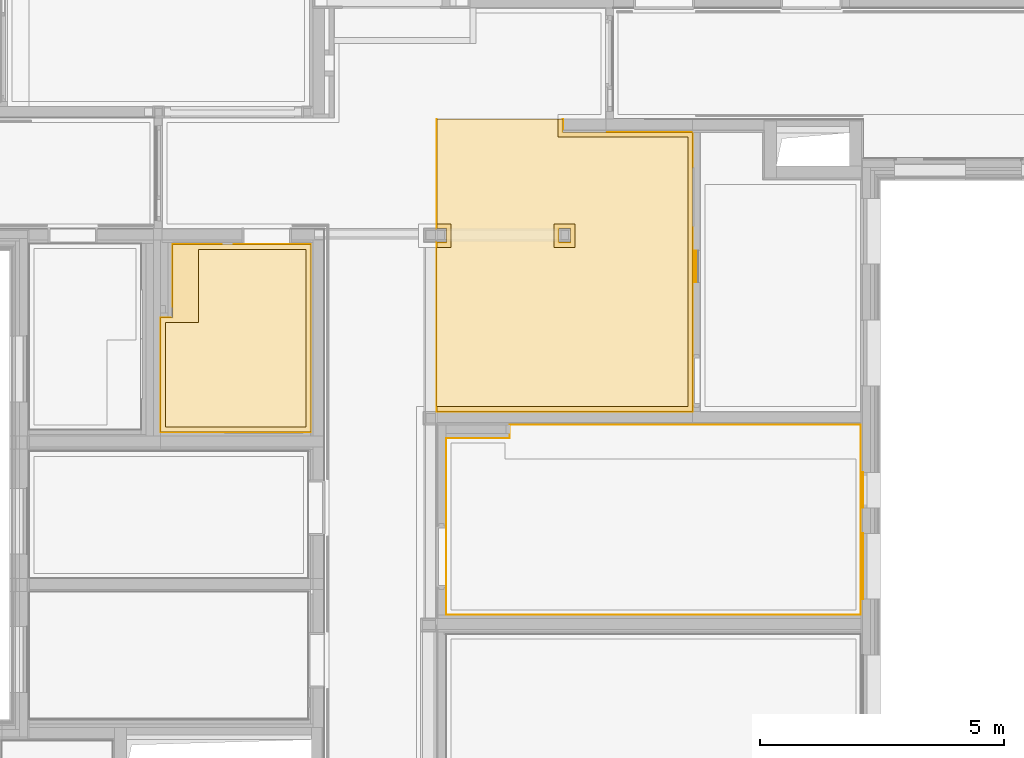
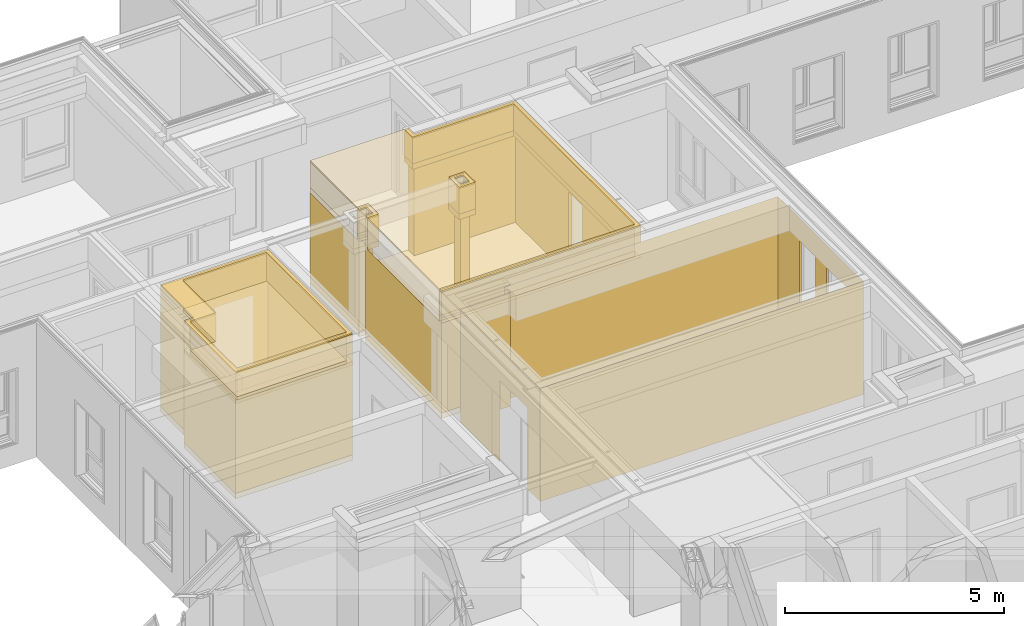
# One storey, part 190 of 222: 21 coverings.
"""IFC4 building model written with IfcOpenShell, lengths in metres."""

import ifcopenshell
import ifcopenshell.guid

model = None  # the IFC model being written
_history = None  # IfcOwnerHistory: only IFC2X3 demands one
_inside = {}  # id of a spatial element -> (the spatial element, [elements in it])
_under = {}  # id of a project, library or spatial element -> (it, [spatial elements below it])
_declared = {}  # id of a project -> (the project, [libraries it declares])
_typed = {}  # id of a type object -> (the type object, [elements of that type])
_made_of = {}  # id of a material, layer set ... -> (it, [elements and type objects made of it])


def new_model(schema):
    """Start an empty IFC model of exactly this schema.

    Asked for "IFC4X3", IfcOpenShell would pick the latest addendum, in which some entities
    have other attributes; the version numbers below select the first issue.
    IFC2X3 requires an IfcOwnerHistory on every rooted entity: one is made here for all.
    """
    global model, _history
    if schema == "IFC4X3":
        model = ifcopenshell.file(schema_version=(4, 3, 0, 0))
    else:
        model = ifcopenshell.file(schema=schema)
    _inside.clear()
    _under.clear()
    _declared.clear()
    _typed.clear()
    _made_of.clear()
    _history = None
    if model.schema == "IFC2X3":
        org = make("IfcOrganization", Name="unknown")
        user = make(
            "IfcPersonAndOrganization",
            ThePerson=make("IfcPerson", FamilyName="unknown"),
            TheOrganization=org,
        )
        app = make(
            "IfcApplication",
            ApplicationDeveloper=org,
            Version="unknown",
            ApplicationFullName="unknown",
            ApplicationIdentifier="unknown",
        )
        _history = make(
            "IfcOwnerHistory",
            OwningUser=user,
            OwningApplication=app,
            ChangeAction="ADDED",
            CreationDate=0,
        )
    return model


def make(cls, **values):
    """One entity of the class cls with the attributes given. An attribute that is None is left unset."""
    return model.create_entity(
        cls, **{name: value for name, value in values.items() if value is not None}
    )


def entity(cls, *values):
    """Any entity or typed value of the class cls, its attributes in the order of the schema. None: left unset."""
    e = model.create_entity(cls)
    for i, value in enumerate(values):
        if value is not None:
            e[i] = value
    return e


def rooted(cls, **values):
    """An entity with a GlobalId (a new one), such as an element, a storey or a relation."""
    return make(cls, GlobalId=ifcopenshell.guid.new(), OwnerHistory=_history, **values)


def si_unit(unit_type, name, prefix=None):
    """IfcSIUnit, for example si_unit("LENGTHUNIT", "METRE", prefix="MILLI")."""
    return make("IfcSIUnit", UnitType=unit_type, Prefix=prefix, Name=name)


def converted_unit(unit_type, name, factor, base, dimensions=None, offset=None):
    """IfcConversionBasedUnit, such as the inch: factor (a typed value) times the base unit."""
    return make(
        "IfcConversionBasedUnit"
        if offset is None
        else "IfcConversionBasedUnitWithOffset",
        ConversionOffset=offset,
        Dimensions=None
        if dimensions is None
        else entity("IfcDimensionalExponents", *dimensions),
        UnitType=unit_type,
        Name=name,
        ConversionFactor=make(
            "IfcMeasureWithUnit", ValueComponent=factor, UnitComponent=base
        ),
    )


def derived_unit(unit_type, elements):
    """IfcDerivedUnit: a product of units, each with its exponent."""
    return make(
        "IfcDerivedUnit",
        Elements=[
            make("IfcDerivedUnitElement", Unit=unit, Exponent=power)
            for unit, power in elements
        ],
        UnitType=unit_type,
    )


def assignment(units):
    """IfcUnitAssignment: the units of a project."""
    return None if units is None else make("IfcUnitAssignment", Units=units)


def point(xyz):
    """IfcCartesianPoint."""
    return None if xyz is None else make("IfcCartesianPoint", Coordinates=xyz)


def direction(xyz):
    """IfcDirection."""
    return None if xyz is None else make("IfcDirection", DirectionRatios=xyz)


def frame(location, z_axis=None, x_axis=None):
    """IfcAxis2Placement3D, a coordinate frame: its origin and axes. An axis left out is left unset."""
    return make(
        "IfcAxis2Placement3D",
        Location=point(location),
        Axis=direction(z_axis),
        RefDirection=direction(x_axis),
    )


def frame_2d(location, x_axis=None):
    """IfcAxis2Placement2D, a coordinate frame in the plane: its origin and x axis."""
    return make(
        "IfcAxis2Placement2D", Location=point(location), RefDirection=direction(x_axis)
    )


def origin():
    """The frame at (0, 0, 0) with its axes left unset."""
    return frame((0.0, 0.0, 0.0))


def origin_with_axes():
    """The frame at (0, 0, 0) with the z axis (0, 0, 1) and the x axis (1, 0, 0) written out."""
    return frame((0.0, 0.0, 0.0), z_axis=(0.0, 0.0, 1.0), x_axis=(1.0, 0.0, 0.0))


def place(relative_to, where):
    """IfcLocalPlacement: puts the frame where relative to a parent placement (None: the world)."""
    return make(
        "IfcLocalPlacement", PlacementRelTo=relative_to, RelativePlacement=where
    )


def context(
    kind, dimensions, precision=None, world=None, true_north=None, identifier=None
):
    """IfcGeometricRepresentationContext, for example the 3D "Model" context."""
    return make(
        "IfcGeometricRepresentationContext",
        ContextIdentifier=identifier,
        ContextType=kind,
        CoordinateSpaceDimension=dimensions,
        Precision=precision,
        WorldCoordinateSystem=world,
        TrueNorth=true_north,
    )


def subcontext(parent, identifier, kind, view, scale=None):
    """IfcGeometricRepresentationSubContext, for example "Body" below "Model"."""
    return make(
        "IfcGeometricRepresentationSubContext",
        ContextIdentifier=identifier,
        ContextType=kind,
        ParentContext=parent,
        TargetScale=scale,
        TargetView=view,
    )


def project(units=None, contexts=None):
    """IfcProject with its units and contexts."""
    return rooted(
        "IfcProject",
        Name="project",
        RepresentationContexts=contexts,
        UnitsInContext=assignment(units),
    )


def spatial(cls, under=None, at=None, **own):
    """A site, building, storey or space (cls), placed at a placement, below another one or the project."""
    s = rooted(cls, ObjectPlacement=at, **own)
    if under is not None:
        _under.setdefault(under.id(), (under, []))[1].append(s)
    return s


def polyline(points):
    """IfcPolyline through the points."""
    return make("IfcPolyline", Points=[point(p) for p in points])


def profile(cls, at=None, kind="AREA", **sizes):
    """A parametric profile (cls). Its sizes go by their IFC names, for example OverallWidth=200.0."""
    return make(cls, ProfileType=kind, Position=at, **sizes)


def rectangle(**sizes):
    """IfcRectangleProfileDef."""
    return profile("IfcRectangleProfileDef", **sizes)


def outline(outer, holes=None, kind="AREA"):
    """IfcArbitraryClosedProfileDef: a profile drawn as a closed curve; with holes, ...WithVoids."""
    if holes is None:
        return make("IfcArbitraryClosedProfileDef", ProfileType=kind, OuterCurve=outer)
    return make(
        "IfcArbitraryProfileDefWithVoids",
        ProfileType=kind,
        OuterCurve=outer,
        InnerCurves=holes,
    )


def extrude(swept, where, along, depth):
    """IfcExtrudedAreaSolid: the profile swept, set in the frame where, extruded along a direction by depth."""
    return make(
        "IfcExtrudedAreaSolid",
        SweptArea=swept,
        Position=where,
        ExtrudedDirection=direction(along),
        Depth=depth,
    )


def shape(context_of_items, identifier, shape_type, items):
    """IfcShapeRepresentation: the items that make up one representation, for example the "Body"."""
    return make(
        "IfcShapeRepresentation",
        ContextOfItems=context_of_items,
        RepresentationIdentifier=identifier,
        RepresentationType=shape_type,
        Items=items,
    )


def material(Name=None, Category=None):
    """IfcMaterial."""
    return make("IfcMaterial", Name=Name, Category=Category)


def layer(
    of_material, thickness, ventilated=None, Name=None, Category=None, Priority=None
):
    """IfcMaterialLayer: one layer of a wall or slab, of a material (None: an air gap)."""
    return make(
        "IfcMaterialLayer",
        Material=of_material,
        LayerThickness=thickness,
        IsVentilated=ventilated,
        Name=Name,
        Category=Category,
        Priority=Priority,
    )


def layer_set(layers, Name=None):
    """IfcMaterialLayerSet."""
    return make("IfcMaterialLayerSet", MaterialLayers=layers, LayerSetName=Name)


def layer_usage(for_layer_set, set_direction, sense, offset, extent=None):
    """IfcMaterialLayerSetUsage: how a layer set lies in its element."""
    return make(
        "IfcMaterialLayerSetUsage",
        ForLayerSet=for_layer_set,
        LayerSetDirection=set_direction,
        DirectionSense=sense,
        OffsetFromReferenceLine=offset,
        ReferenceExtent=extent,
    )


def made_of(thing, what):
    """Note that an element or type object is made of a material, layer set ...; save() writes the relation."""
    if what is not None:
        _made_of.setdefault(what.id(), (what, []))[1].append(thing)
    return thing


def element(
    cls,
    number,
    at=None,
    inside=None,
    cuts=None,
    type_object=None,
    material=None,
    context=None,
    identifier="Body",
    shape_type=None,
    held_by="IfcProductDefinitionShape",
    body=None,
    shapes=None,
    **own,
):
    """One element of the class cls, such as IfcWall. Its Tag is "e" and its number.

    at: its placement. inside: the storey or other place that contains it. cuts: it is an
    opening in that element (IfcRelVoidsElement). A single representation is given by context,
    identifier, shape_type and body (its items); several are given by shapes. held_by: the class
    of the entity that holds the representations. save() writes the other relations.
    """
    e = rooted(cls, Tag="e%d" % number, ObjectPlacement=at, **own)
    if body is not None:
        shapes = [shape(context, identifier, shape_type, body)]
    if shapes is not None:
        e.Representation = make(held_by, Representations=shapes)
    if inside is not None:
        _inside.setdefault(inside.id(), (inside, []))[1].append(e)
    if cuts is not None:
        rooted(
            "IfcRelVoidsElement", RelatingBuildingElement=cuts, RelatedOpeningElement=e
        )
    if type_object is not None:
        _typed.setdefault(type_object.id(), (type_object, []))[1].append(e)
    return made_of(e, material)


def aggregate(whole, parts):
    """IfcRelAggregates: a whole, such as a stair, and the parts it consists of."""
    return rooted("IfcRelAggregates", RelatingObject=whole, RelatedObjects=parts)


def save(model, path):
    """Write the relations noted so far, then the file.

    IfcRelAggregates (storeys below a building ...), IfcRelContainedInSpatialStructure (elements
    in a storey), IfcRelDefinesByType, IfcRelAssociatesMaterial and IfcRelDeclares: one each for
    every whole, place, type object, material and project.
    """
    for whole, parts in _under.values():
        aggregate(whole, parts)
    for where, things in _inside.values():
        rooted(
            "IfcRelContainedInSpatialStructure",
            RelatedElements=things,
            RelatingStructure=where,
        )
    for kind, things in _typed.values():
        rooted("IfcRelDefinesByType", RelatedObjects=things, RelatingType=kind)
    for what, things in _made_of.values():
        rooted("IfcRelAssociatesMaterial", RelatedObjects=things, RelatingMaterial=what)
    for by, libraries in _declared.values():
        rooted("IfcRelDeclares", RelatingContext=by, RelatedDefinitions=libraries)
    model.write(path)


model = new_model("IFC4")

# Units and contexts
model_context = context("Model", 3, precision=1e-05, world=origin())
body_context = subcontext(model_context, "Body", "Model", "MODEL_VIEW")
ifc_project = project(units=[si_unit("LENGTHUNIT", "METRE"), si_unit("AREAUNIT", "SQUARE_METRE"), si_unit("VOLUMEUNIT", "CUBIC_METRE"), si_unit("MASSUNIT", "GRAM", prefix="KILO"), converted_unit("PLANEANGLEUNIT", "DEGREE", entity("IfcPlaneAngleMeasure", 0.0174532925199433), si_unit("PLANEANGLEUNIT", "RADIAN"), dimensions=[0, 0, 0, 0, 0, 0, 0]), derived_unit("THERMALTRANSMITTANCEUNIT", [(si_unit("POWERUNIT", "WATT"), 1), (si_unit("THERMODYNAMICTEMPERATUREUNIT", "KELVIN"), -1), (si_unit("LENGTHUNIT", "METRE"), -2)]), derived_unit("VOLUMETRICFLOWRATEUNIT", [(si_unit("LENGTHUNIT", "METRE"), 3), (converted_unit("TIMEUNIT", "hour", entity("IfcTimeMeasure", 3600.0), si_unit("TIMEUNIT", "SECOND"), dimensions=[0, 0, 1, 0, 0, 0, 0]), -1), (si_unit("LENGTHUNIT", "METRE"), -1)])], contexts=[model_context])

# Site, building, storey, space
site_placement = place(None, origin())
site = spatial("IfcSite", under=ifc_project, at=site_placement, Name="Psychiatrie Neubau Wunstorf", CompositionType="ELEMENT")
building_placement = place(site_placement, origin())
building = spatial("IfcBuilding", under=site, at=building_placement, Name="Neubau H2 Stationsgebäude", CompositionType="ELEMENT")
storey_placement = place(building_placement, frame((0.0, 0.0, 3.6)))
storey = spatial("IfcBuildingStorey", under=building, at=storey_placement, Name="H2 Ebene +1", CompositionType="ELEMENT", Elevation=3.6)
space_1_placement = place(storey_placement, frame((64.76, 16.411000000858, 0.0)))
space_1 = spatial("IfcSpace", under=storey, at=space_1_placement, Name="WUN-H2-E01-067", CompositionType="ELEMENT")

# Coverings
ifc_material_1 = material()
ifc_layer_1 = layer(ifc_material_1, 0.036)
ifc_layer_set_1 = layer_set([ifc_layer_1])
ifc_layer_usage_1 = layer_usage(ifc_layer_set_1, "AXIS3", "POSITIVE", 0.0)
covering_1_placement = place(space_1_placement, frame((0.100000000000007, 0.1, 3.55)))
element("IfcCovering", 1, at=covering_1_placement, inside=space_1, material=ifc_layer_usage_1, Name="Gipsfaserplatten 2-lagig (BSK)", PredefinedType="CEILING", context=body_context, shape_type="SweptSolid", body=[
    extrude(outline(polyline([(0.0, 3.65299815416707), (0.0, 1.50300224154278), (0.680001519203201, 1.50300224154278), (0.680001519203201, 0.0), (2.88550000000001, 0.0), (2.88550000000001, 3.65299815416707), (0.0, 3.65299815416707)])), frame((0.0, 3.65299815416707, 0.0), z_axis=(0.0, 0.0, -1.0), x_axis=(1.0, 0.0, 0.0)), (0.0, 0.0, 1.0), 0.036),
])
ifc_material_2 = material(Name="Installationshöhe")
ifc_layer_2 = layer(ifc_material_2, 0.764)
ifc_layer_set_2 = layer_set([ifc_layer_2])
ifc_layer_usage_2 = layer_usage(ifc_layer_set_2, "AXIS3", "POSITIVE", 0.0)
covering_2_placement = place(space_1_placement, frame((0.100000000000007, 0.1, 3.514)))
element("IfcCovering", 2, at=covering_2_placement, inside=space_1, material=ifc_layer_usage_2, Name="Gipsfaserplatten 2-lagig (BSK)", PredefinedType="CEILING", context=body_context, shape_type="SweptSolid", body=[
    extrude(outline(polyline([(0.0, 3.65299815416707), (0.0, 1.50300224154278), (0.680001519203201, 1.50300224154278), (0.680001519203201, 0.0), (2.88550000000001, 0.0), (2.88550000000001, 3.65299815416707), (0.0, 3.65299815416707)])), frame((0.0, 3.65299815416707, 0.0), z_axis=(0.0, 0.0, -1.0), x_axis=(1.0, 0.0, 0.0)), (0.0, 0.0, 1.0), 0.764),
])
ifc_material_3 = material(Name="H7a")
ifc_layer_3 = layer(ifc_material_3, 0.1)
ifc_layer_set_3 = layer_set([ifc_layer_3])
ifc_layer_usage_3 = layer_usage(ifc_layer_set_3, "AXIS3", "POSITIVE", 0.0)
covering_3_placement = place(space_1_placement, frame((0.100000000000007, 0.1, 2.75)))
element("IfcCovering", 3, at=covering_3_placement, inside=space_1, material=ifc_layer_usage_3, Name="Kühldecke glatt", PredefinedType="CEILING", context=body_context, shape_type="SweptSolid", body=[
    extrude(outline(polyline([(0.0, 3.65299815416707), (0.0, 1.50300224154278), (0.680001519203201, 1.50300224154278), (0.680001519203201, 0.0), (2.88550000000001, 0.0), (2.88550000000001, 3.65299815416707), (0.0, 3.65299815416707)])), frame((0.0, 3.65299815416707, 0.0), z_axis=(0.0, 0.0, -1.0), x_axis=(1.0, 0.0, 0.0)), (0.0, 0.0, 1.0), 0.1),
])
ifc_material_4 = material(Name="D1")
ifc_layer_4 = layer(ifc_material_4, 0.001)
ifc_layer_set_4 = layer_set([ifc_layer_4])
ifc_layer_usage_4 = layer_usage(ifc_layer_set_4, "AXIS3", "POSITIVE", 0.0)
covering_4_placement = place(space_1_placement, frame((0.100000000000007, 0.1, 2.65)))
element("IfcCovering", 4, at=covering_4_placement, inside=space_1, material=ifc_layer_usage_4, Name="Gipsfaserplatten 2-lagig (BSK)", PredefinedType="CEILING", context=body_context, shape_type="SweptSolid", body=[
    extrude(outline(polyline([(0.0, 3.65299815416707), (0.0, 1.50300224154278), (0.680001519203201, 1.50300224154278), (0.680001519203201, 0.0), (2.88550000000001, 0.0), (2.88550000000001, 3.65299815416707), (0.0, 3.65299815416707)])), frame((0.0, 3.65299815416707, 0.0), z_axis=(0.0, 0.0, -1.0), x_axis=(1.0, 0.0, 0.0)), (0.0, 0.0, 1.0), 0.001),
])
ifc_material_5 = material(Name="Ku1")
ifc_layer_5 = layer(ifc_material_5, 0.15)
ifc_layer_set_5 = layer_set([ifc_layer_5])
ifc_layer_usage_5 = layer_usage(ifc_layer_set_5, "AXIS3", "POSITIVE", 0.0)
covering_5_placement = place(space_1_placement, origin())
element("IfcCovering", 5, at=covering_5_placement, inside=space_1, material=ifc_layer_usage_5, Name="PVC Bahnenware Holzoptik", PredefinedType="FLOORING", context=body_context, shape_type="SweptSolid", body=[
    extrude(outline(polyline([(0.250000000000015, 3.85299815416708), (0.250000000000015, 2.34999604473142), (0.0, 2.34999604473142), (0.0, 0.0), (3.08550000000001, 0.0), (3.08550000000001, 3.85299815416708), (0.250000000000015, 3.85299815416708)])), origin_with_axes(), (0.0, 0.0, 1.0), 0.15),
])
ifc_material_6 = material()
ifc_layer_6 = layer(ifc_material_6, 0.036)
ifc_layer_set_6 = layer_set([ifc_layer_6])
ifc_layer_usage_6 = layer_usage(ifc_layer_set_6, "AXIS3", "POSITIVE", 0.0)
covering_6_placement = place(space_1_placement, frame((0.0, 0.0, 3.55)))
element("IfcCovering", 6, at=covering_6_placement, inside=space_1, material=ifc_layer_usage_6, Name="Gipsfaserplatten 2-lagig (BSK)", PredefinedType="CEILING", context=body_context, shape_type="SweptSolid", body=[
    extrude(outline(polyline([(0.250000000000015, 1.50300210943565), (0.250000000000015, 0.0), (3.08550000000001, 0.0), (3.08550000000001, 3.85299815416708), (0.0, 3.85299815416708), (0.0, 1.50300210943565), (0.250000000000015, 1.50300210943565)]), holes=[polyline([(0.1, 1.60300224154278), (0.1, 3.75299815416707), (2.98550000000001, 3.75299815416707), (2.98550000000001, 0.1), (0.780001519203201, 0.1), (0.780001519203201, 1.60300224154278), (0.1, 1.60300224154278)])]), frame((0.0, 3.85299815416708, 0.0), z_axis=(0.0, 0.0, -1.0), x_axis=(1.0, 0.0, 0.0)), (0.0, 0.0, 1.0), 0.036),
])
ifc_material_7 = material(Name="Installationshöhe")
ifc_layer_7 = layer(ifc_material_7, 0.764)
ifc_layer_set_7 = layer_set([ifc_layer_7])
ifc_layer_usage_7 = layer_usage(ifc_layer_set_7, "AXIS3", "POSITIVE", 0.0)
covering_7_placement = place(space_1_placement, frame((0.0, 0.0, 3.514)))
element("IfcCovering", 7, at=covering_7_placement, inside=space_1, material=ifc_layer_usage_7, Name="Gipsfaserplatten 2-lagig (BSK)", PredefinedType="CEILING", context=body_context, shape_type="SweptSolid", body=[
    extrude(outline(polyline([(0.250000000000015, 1.50300210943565), (0.250000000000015, 0.0), (3.08550000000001, 0.0), (3.08550000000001, 3.85299815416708), (0.0, 3.85299815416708), (0.0, 1.50300210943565), (0.250000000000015, 1.50300210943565)]), holes=[polyline([(0.1, 1.60300224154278), (0.1, 3.75299815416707), (2.98550000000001, 3.75299815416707), (2.98550000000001, 0.1), (0.780001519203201, 0.1), (0.780001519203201, 1.60300224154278), (0.1, 1.60300224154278)])]), frame((0.0, 3.85299815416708, 0.0), z_axis=(0.0, 0.0, -1.0), x_axis=(1.0, 0.0, 0.0)), (0.0, 0.0, 1.0), 0.764),
])
ifc_material_8 = material(Name="H7a")
ifc_layer_8 = layer(ifc_material_8, 0.1)
ifc_layer_set_8 = layer_set([ifc_layer_8])
ifc_layer_usage_8 = layer_usage(ifc_layer_set_8, "AXIS3", "POSITIVE", 0.0)
covering_8_placement = place(space_1_placement, frame((0.0, 0.0, 2.75)))
element("IfcCovering", 8, at=covering_8_placement, inside=space_1, material=ifc_layer_usage_8, Name="Kühldecke glatt", PredefinedType="CEILING", context=body_context, shape_type="SweptSolid", body=[
    extrude(outline(polyline([(0.250000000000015, 1.50300210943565), (0.250000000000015, 0.0), (3.08550000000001, 0.0), (3.08550000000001, 3.85299815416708), (0.0, 3.85299815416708), (0.0, 1.50300210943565), (0.250000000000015, 1.50300210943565)]), holes=[polyline([(0.1, 1.60300224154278), (0.1, 3.75299815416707), (2.98550000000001, 3.75299815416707), (2.98550000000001, 0.1), (0.780001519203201, 0.1), (0.780001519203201, 1.60300224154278), (0.1, 1.60300224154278)])]), frame((0.0, 3.85299815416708, 0.0), z_axis=(0.0, 0.0, -1.0), x_axis=(1.0, 0.0, 0.0)), (0.0, 0.0, 1.0), 0.1),
])
ifc_material_9 = material(Name="D1")
ifc_layer_9 = layer(ifc_material_9, 0.001)
ifc_layer_set_9 = layer_set([ifc_layer_9])
ifc_layer_usage_9 = layer_usage(ifc_layer_set_9, "AXIS3", "POSITIVE", 0.0)
covering_9_placement = place(space_1_placement, frame((0.0, 0.0, 2.65)))
element("IfcCovering", 9, at=covering_9_placement, inside=space_1, material=ifc_layer_usage_9, Name="Gipsfaserplatten 2-lagig (BSK)", PredefinedType="CEILING", context=body_context, shape_type="SweptSolid", body=[
    extrude(outline(polyline([(0.250000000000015, 1.50300210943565), (0.250000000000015, 0.0), (3.08550000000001, 0.0), (3.08550000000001, 3.85299815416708), (0.0, 3.85299815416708), (0.0, 1.50300210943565), (0.250000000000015, 1.50300210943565)]), holes=[polyline([(0.1, 1.60300224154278), (0.1, 3.75299815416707), (2.98550000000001, 3.75299815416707), (2.98550000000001, 0.1), (0.780001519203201, 0.1), (0.780001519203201, 1.60300224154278), (0.1, 1.60300224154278)])]), frame((0.0, 3.85299815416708, 0.0), z_axis=(0.0, 0.0, -1.0), x_axis=(1.0, 0.0, 0.0)), (0.0, 0.0, 1.0), 0.001),
])
ifc_material_10 = material(Name="49")
ifc_layer_10 = layer(ifc_material_10, 0.001)
ifc_layer_set_10 = layer_set([ifc_layer_10])
ifc_layer_usage_10 = layer_usage(ifc_layer_set_10, "AXIS3", "POSITIVE", 0.0)
covering_10_placement = place(space_1_placement, frame((0.0, 0.0, 0.15)))
element("IfcCovering", 10, at=covering_10_placement, inside=space_1, material=ifc_layer_usage_10, PredefinedType="CLADDING", context=body_context, shape_type="SweptSolid", body=[
    extrude(rectangle(XDim=3.85299815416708, YDim=3.15, at=frame_2d((1.92649907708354, -1.575), x_axis=(1.0, 0.0))), frame((3.08550000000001, 0.0, 0.0), z_axis=(-1.0, 0.0, 0.0), x_axis=(0.0, 1.0, 0.0)), (0.0, 0.0, 1.0), 0.001),
    extrude(outline(polyline([(0.0, 3.15), (0.400000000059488, 3.15), (0.400000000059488, 0.89), (1.41000000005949, 0.89), (1.41000000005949, 3.15), (2.8355, 3.15), (2.8355, 0.0), (0.0, 0.0), (0.0, 3.15)])), frame((3.08550000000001, 3.85299815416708, 3.15), z_axis=(0.0, -1.0, 0.0), x_axis=(-1.0, 0.0, 0.0)), (0.0, 0.0, 1.0), 0.001),
    extrude(rectangle(XDim=1.50300210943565, YDim=3.15, at=frame_2d((0.751501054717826, -1.575), x_axis=(1.0, 0.0))), frame((0.250000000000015, 3.85299815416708, 0.0), z_axis=(1.0, 0.0, 0.0), x_axis=(0.0, -1.0, 0.0)), (0.0, 0.0, 1.0), 0.001),
    extrude(rectangle(XDim=0.250000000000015, YDim=3.15, at=frame_2d((0.125000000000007, -1.575), x_axis=(1.0, 0.0))), frame((0.250000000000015, 2.34999604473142, 0.0), z_axis=(0.0, -1.0, 0.0), x_axis=(-1.0, 0.0, 0.0)), (0.0, 0.0, 1.0), 0.001),
    extrude(rectangle(XDim=2.34999604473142, YDim=3.15, at=frame_2d((1.17499802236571, -1.575), x_axis=(1.0, 0.0))), frame((0.0, 2.34999604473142, 0.0), z_axis=(1.0, 0.0, 0.0), x_axis=(0.0, -1.0, 0.0)), (0.0, 0.0, 1.0), 0.001),
    extrude(rectangle(XDim=3.08550000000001, YDim=3.15, at=frame_2d((1.54275000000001, -1.575), x_axis=(1.0, 0.0))), frame((0.0, 0.0, 0.0), z_axis=(0.0, 1.0, 0.0), x_axis=(1.0, 0.0, 0.0)), (0.0, 0.0, 1.0), 0.001),
])

# Space
space_2_placement = place(storey_placement, frame((70.6200000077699, 12.661, 0.0)))
space_2 = spatial("IfcSpace", under=storey, at=space_2_placement, Name="WUN-H2-E01-058", CompositionType="ELEMENT")

# Covering
ifc_material_11 = material(Name="49")
ifc_layer_11 = layer(ifc_material_11, 0.001)
ifc_layer_set_11 = layer_set([ifc_layer_11])
ifc_layer_usage_11 = layer_usage(ifc_layer_set_11, "AXIS3", "POSITIVE", 0.0)
covering_11_placement = place(space_2_placement, frame((0.0, 0.0, 0.15)))
element("IfcCovering", 11, at=covering_11_placement, inside=space_2, material=ifc_layer_usage_11, PredefinedType="CLADDING", context=body_context, shape_type="SweptSolid", body=[
    extrude(rectangle(XDim=7.20899999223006, YDim=3.15, at=frame_2d((3.60449999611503, -1.575), x_axis=(1.0, 0.0))), frame((8.51899999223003, 3.89949999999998, 0.0), z_axis=(0.0, -1.0, 0.0), x_axis=(-1.0, 0.0, 0.0)), (0.0, 0.0, 1.0), 0.001),
    extrude(rectangle(XDim=0.275000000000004, YDim=3.15, at=frame_2d((0.137500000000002, -1.575), x_axis=(1.0, 0.0))), frame((1.30999999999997, 3.89949999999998, 0.0), z_axis=(1.0, 0.0, 0.0), x_axis=(0.0, -1.0, 0.0)), (0.0, 0.0, 1.0), 0.001),
    extrude(rectangle(XDim=1.30999999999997, YDim=3.15, at=frame_2d((0.654999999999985, -1.575), x_axis=(1.0, 0.0))), frame((1.30999999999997, 3.62449999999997, 0.0), z_axis=(-2.7770830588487e-15, -1.0, 0.0), x_axis=(-1.0, 2.7770830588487e-15, 0.0)), (0.0, 0.0, 1.0), 0.001),
    extrude(outline(polyline([(0.0, 3.15), (1.80049999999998, 3.15), (1.80049999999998, 0.89), (3.06049999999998, 0.89), (3.06049999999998, 3.15), (3.62449999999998, 3.15), (3.62449999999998, 0.0), (0.0, 0.0), (0.0, 3.15)])), frame((0.0, 3.62449999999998, 3.15), z_axis=(1.0, 2.49012471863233e-13, 4.98020599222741e-14), x_axis=(2.49012471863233e-13, -1.0, 0.0)), (0.0, 0.0, 1.0), 0.001),
    extrude(rectangle(XDim=8.51899999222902, YDim=3.15, at=frame_2d((4.25949999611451, -1.575), x_axis=(1.0, 0.0))), frame((0.0, 0.0, 0.0), z_axis=(2.13521470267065e-16, 1.0, 0.0), x_axis=(1.0, -2.13521470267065e-16, 0.0)), (0.0, 0.0, 1.0), 0.001),
    extrude(outline(polyline([(0.0, 3.15), (3.89949999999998, 3.15), (3.89949999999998, 0.0), (0.0, 0.0), (0.0, 3.15)]), holes=[polyline([(1.67235587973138, 2.75), (0.322355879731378, 2.75), (0.322355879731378, 0.635), (1.67235587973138, 0.635), (1.67235587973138, 2.75)]), polyline([(2.92161277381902, 2.75), (2.19661277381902, 2.75), (2.19661277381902, 0.635), (2.92161277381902, 0.635), (2.92161277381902, 2.75)])]), frame((8.51899999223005, 0.0, 3.15), z_axis=(-1.0, 0.0, 0.0), x_axis=(0.0, 1.0, 0.0)), (0.0, 0.0, 1.0), 0.001),
    extrude(rectangle(XDim=1.35, YDim=0.05, at=frame_2d((-0.025, -0.674999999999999), x_axis=(0.0, -1.0))), frame((8.56899999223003, 0.322355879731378, 2.515), z_axis=(0.0, 0.0, -1.0), x_axis=(1.0, 0.0, 0.0)), (0.0, 0.0, 1.0), 0.001),
    extrude(rectangle(XDim=2.115, YDim=0.05, at=frame_2d((-0.025, -1.0575), x_axis=(0.0, -1.0))), frame((8.56899999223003, 0.322355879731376, 0.4), z_axis=(-1.81898940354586e-14, 1.0, -4.30021135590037e-16), x_axis=(1.0, 1.81898940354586e-14, 0.0)), (0.0, 0.0, 1.0), 0.001),
    extrude(rectangle(XDim=2.115, YDim=0.05, at=frame_2d((-0.025, -1.0575), x_axis=(0.0, -1.0))), frame((8.51899999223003, 1.67235587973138, 0.4), z_axis=(3.63797880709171e-14, -1.0, 0.0), x_axis=(-1.0, -3.63797880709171e-14, 0.0)), (0.0, 0.0, 1.0), 0.001),
    extrude(rectangle(XDim=0.725, YDim=0.05, at=frame_2d((-0.025, -0.3625), x_axis=(0.0, -1.0))), frame((8.56899999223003, 2.19661277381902, 2.515), z_axis=(0.0, 0.0, -1.0), x_axis=(1.0, 0.0, 0.0)), (0.0, 0.0, 1.0), 0.001),
    extrude(rectangle(XDim=2.115, YDim=0.05, at=frame_2d((-0.025, -1.0575), x_axis=(0.0, -1.0))), frame((8.56899999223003, 2.19661277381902, 0.4), z_axis=(0.0, 1.0, 0.0), x_axis=(1.0, 0.0, 0.0)), (0.0, 0.0, 1.0), 0.001),
    extrude(rectangle(XDim=2.115, YDim=0.05, at=frame_2d((-0.025, -1.0575), x_axis=(0.0, -1.0))), frame((8.51899999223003, 2.92161277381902, 0.4), z_axis=(0.0, -1.0, 0.0), x_axis=(-1.0, 0.0, 0.0)), (0.0, 0.0, 1.0), 0.001),
])

# Space
space_3_placement = place(storey_placement, frame((70.4300000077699, 16.8325, 0.0)))
space_3 = spatial("IfcSpace", under=storey, at=space_3_placement, Name="WUN-H2-E01-F09a", CompositionType="ELEMENT")

# Coverings
ifc_material_12 = material(Name="Ku1")
ifc_layer_12 = layer(ifc_material_12, 0.15)
ifc_layer_set_12 = layer_set([ifc_layer_12])
ifc_layer_usage_12 = layer_usage(ifc_layer_set_12, "AXIS3", "POSITIVE", 0.0)
covering_12_placement = place(space_3_placement, origin())
element("IfcCovering", 12, at=covering_12_placement, inside=space_3, material=ifc_layer_usage_12, Name="PVC Bahnenware Holzoptik", PredefinedType="FLOORING", context=body_context, shape_type="SweptSolid", body=[
    extrude(outline(polyline([(0.196, 3.4714951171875), (0.0, 3.4714951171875), (0.0, 0.0), (5.25399999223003, 0.0), (5.25399999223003, 5.73150000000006), (2.59199999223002, 5.73150000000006), (2.59199999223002, 6.00350000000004), (0.0, 6.00350000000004), (0.0, 3.7534951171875), (0.196, 3.7534951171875), (0.196, 3.4714951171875)]), holes=[polyline([(2.50999706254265, 3.4714951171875), (2.50999706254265, 3.7534951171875), (2.74199999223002, 3.7534951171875), (2.74199706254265, 3.4714951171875), (2.50999706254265, 3.4714951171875)])]), origin_with_axes(), (0.0, 0.0, 1.0), 0.15),
])
ifc_material_13 = material()
ifc_layer_13 = layer(ifc_material_13, 0.036)
ifc_layer_set_13 = layer_set([ifc_layer_13])
ifc_layer_usage_13 = layer_usage(ifc_layer_set_13, "AXIS3", "POSITIVE", 0.0)
covering_13_placement = place(space_3_placement, frame((-0.00375690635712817, 0.1, 3.55)))
element("IfcCovering", 13, at=covering_13_placement, inside=space_3, material=ifc_layer_usage_13, Name="Gipsfaserplatten 2-lagig (BSK)", PredefinedType="CEILING", context=body_context, shape_type="SweptSolid", body=[
    extrude(outline(polyline([(0.0, 5.90350000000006), (0.00031623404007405, 2.63200197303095), (0.299756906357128, 2.63200197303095), (0.299756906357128, 2.15000488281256), (0.00375690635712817, 2.15000488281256), (0.00375690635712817, 0.0), (2.49575689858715, 0.0), (2.49575689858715, 0.372000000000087), (5.15775689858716, 0.372000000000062), (5.15775689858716, 5.90350000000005), (0.0, 5.90350000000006)]), holes=[polyline([(2.41375689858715, 2.15000488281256), (2.41375689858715, 2.63200488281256), (2.84575689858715, 2.63200488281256), (2.84575689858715, 2.15000488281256), (2.41375689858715, 2.15000488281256)])]), frame((0.0, 5.90350000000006, 0.0), z_axis=(0.0, 0.0, -1.0), x_axis=(1.0, 0.0, 0.0)), (0.0, 0.0, 1.0), 0.036),
])
ifc_material_14 = material(Name="Installationshöhe")
ifc_layer_14 = layer(ifc_material_14, 0.714)
ifc_layer_set_14 = layer_set([ifc_layer_14])
ifc_layer_usage_14 = layer_usage(ifc_layer_set_14, "AXIS3", "POSITIVE", 0.0)
covering_14_placement = place(space_3_placement, frame((-0.00375690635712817, 0.1, 3.514)))
element("IfcCovering", 14, at=covering_14_placement, inside=space_3, material=ifc_layer_usage_14, Name="Gipsfaserplatten 2-lagig (BSK)", PredefinedType="CEILING", context=body_context, shape_type="SweptSolid", body=[
    extrude(outline(polyline([(0.0, 5.90350000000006), (0.00031623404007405, 2.63200197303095), (0.299756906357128, 2.63200197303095), (0.299756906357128, 2.15000488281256), (0.00375690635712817, 2.15000488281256), (0.00375690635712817, 0.0), (2.49575689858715, 0.0), (2.49575689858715, 0.372000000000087), (5.15775689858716, 0.372000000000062), (5.15775689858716, 5.90350000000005), (0.0, 5.90350000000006)]), holes=[polyline([(2.41375689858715, 2.15000488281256), (2.41375689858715, 2.63200488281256), (2.84575689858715, 2.63200488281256), (2.84575689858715, 2.15000488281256), (2.41375689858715, 2.15000488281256)])]), frame((0.0, 5.90350000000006, 0.0), z_axis=(0.0, 0.0, -1.0), x_axis=(1.0, 0.0, 0.0)), (0.0, 0.0, 1.0), 0.714),
])
ifc_material_15 = material(Name="Aa")
ifc_layer_15 = layer(ifc_material_15, 0.15)
ifc_layer_set_15 = layer_set([ifc_layer_15])
ifc_layer_usage_15 = layer_usage(ifc_layer_set_15, "AXIS3", "POSITIVE", 0.0)
covering_15_placement = place(space_3_placement, frame((-0.00375690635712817, 0.1, 2.8)))
element("IfcCovering", 15, at=covering_15_placement, inside=space_3, material=ifc_layer_usage_15, Name="Gipsfaserplatten 2-lagig (BSK)", PredefinedType="CEILING", context=body_context, shape_type="SweptSolid", body=[
    extrude(outline(polyline([(0.0, 5.90350000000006), (0.00031623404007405, 2.63200197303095), (0.299756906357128, 2.63200197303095), (0.299756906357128, 2.15000488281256), (0.00375690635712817, 2.15000488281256), (0.00375690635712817, 0.0), (2.49575689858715, 0.0), (2.49575689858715, 0.372000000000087), (5.15775689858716, 0.372000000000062), (5.15775689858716, 5.90350000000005), (0.0, 5.90350000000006)]), holes=[polyline([(2.41375689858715, 2.15000488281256), (2.41375689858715, 2.63200488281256), (2.84575689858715, 2.63200488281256), (2.84575689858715, 2.15000488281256), (2.41375689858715, 2.15000488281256)])]), frame((0.0, 5.90350000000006, 0.0), z_axis=(0.0, 0.0, -1.0), x_axis=(1.0, 0.0, 0.0)), (0.0, 0.0, 1.0), 0.15),
])
ifc_material_16 = material(Name="D1")
ifc_layer_16 = layer(ifc_material_16, 0.001)
ifc_layer_set_16 = layer_set([ifc_layer_16])
ifc_layer_usage_16 = layer_usage(ifc_layer_set_16, "AXIS3", "POSITIVE", 0.0)
covering_16_placement = place(space_3_placement, frame((-0.00375690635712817, 0.1, 2.65)))
element("IfcCovering", 16, at=covering_16_placement, inside=space_3, material=ifc_layer_usage_16, Name="Gipsfaserplatten 2-lagig (BSK)", PredefinedType="CEILING", context=body_context, shape_type="SweptSolid", body=[
    extrude(outline(polyline([(0.0, 5.90350000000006), (0.00031623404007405, 2.63200197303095), (0.299756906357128, 2.63200197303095), (0.299756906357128, 2.15000488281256), (0.00375690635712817, 2.15000488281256), (0.00375690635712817, 0.0), (2.49575689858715, 0.0), (2.49575689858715, 0.372000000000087), (5.15775689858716, 0.372000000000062), (5.15775689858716, 5.90350000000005), (0.0, 5.90350000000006)]), holes=[polyline([(2.41375689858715, 2.15000488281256), (2.41375689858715, 2.63200488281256), (2.84575689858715, 2.63200488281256), (2.84575689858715, 2.15000488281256), (2.41375689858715, 2.15000488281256)])]), frame((0.0, 5.90350000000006, 0.0), z_axis=(0.0, 0.0, -1.0), x_axis=(1.0, 0.0, 0.0)), (0.0, 0.0, 1.0), 0.001),
])
ifc_material_17 = material()
ifc_layer_17 = layer(ifc_material_17, 0.036)
ifc_layer_set_17 = layer_set([ifc_layer_17])
ifc_layer_usage_17 = layer_usage(ifc_layer_set_17, "AXIS3", "POSITIVE", 0.0)
covering_17_placement = place(space_3_placement, frame((0.0, 0.0, 3.55)))
element("IfcCovering", 17, at=covering_17_placement, inside=space_3, material=ifc_layer_usage_17, Name="Gipsfaserplatten 2-lagig (BSK)", PredefinedType="CEILING", context=body_context, shape_type="SweptSolid", body=[
    extrude(outline(polyline([(2.49199999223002, 0.372000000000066), (2.49199999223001, 0.0), (2.59199999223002, 0.0), (2.59199999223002, 0.271999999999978), (5.25399999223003, 0.271999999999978), (5.25399999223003, 6.00350000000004), (0.0, 6.00350000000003), (0.0, 5.90350000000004), (5.15399999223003, 5.90350000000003), (5.15399999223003, 0.37200000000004), (2.49199999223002, 0.372000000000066)])), frame((0.0, 6.00350000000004, 0.0), z_axis=(0.0, 0.0, -1.0), x_axis=(1.0, 0.0, 0.0)), (0.0, 0.0, 1.0), 0.036),
    extrude(outline(polyline([(0.0, 0.482), (0.0, 0.0), (0.432, 0.0), (0.432, 0.482), (0.0, 0.482)]), holes=[polyline([(0.099997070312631, 0.382), (0.331997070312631, 0.382), (0.332, 0.1), (0.099997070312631, 0.1), (0.099997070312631, 0.382)])]), frame((2.40999999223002, 3.8534951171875, 0.0), z_axis=(0.0, 0.0, -1.0), x_axis=(1.0, 0.0, 0.0)), (0.0, 0.0, 1.0), 0.036),
    extrude(outline(polyline([(0.196, 0.382), (0.196, 0.1), (0.0, 0.1), (0.0, 0.0), (0.296, 0.0), (0.296, 0.481997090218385), (0.0, 0.481997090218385), (0.0, 0.382), (0.196, 0.382)])), frame((0.0, 3.8534951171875, 0.0), z_axis=(0.0, 0.0, -1.0), x_axis=(1.0, 0.0, 0.0)), (0.0, 0.0, 1.0), 0.036),
])
ifc_material_18 = material(Name="Installationshöhe")
ifc_layer_18 = layer(ifc_material_18, 0.714)
ifc_layer_set_18 = layer_set([ifc_layer_18])
ifc_layer_usage_18 = layer_usage(ifc_layer_set_18, "AXIS3", "POSITIVE", 0.0)
covering_18_placement = place(space_3_placement, frame((0.0, 0.0, 3.514)))
element("IfcCovering", 18, at=covering_18_placement, inside=space_3, material=ifc_layer_usage_18, Name="Gipsfaserplatten 2-lagig (BSK)", PredefinedType="CEILING", context=body_context, shape_type="SweptSolid", body=[
    extrude(outline(polyline([(2.49199999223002, 0.372000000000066), (2.49199999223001, 0.0), (2.59199999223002, 0.0), (2.59199999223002, 0.271999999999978), (5.25399999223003, 0.271999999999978), (5.25399999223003, 6.00350000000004), (0.0, 6.00350000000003), (0.0, 5.90350000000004), (5.15399999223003, 5.90350000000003), (5.15399999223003, 0.37200000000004), (2.49199999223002, 0.372000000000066)])), frame((0.0, 6.00350000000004, 0.0), z_axis=(0.0, 0.0, -1.0), x_axis=(1.0, 0.0, 0.0)), (0.0, 0.0, 1.0), 0.714),
    extrude(outline(polyline([(0.0, 0.482), (0.0, 0.0), (0.432, 0.0), (0.432, 0.482), (0.0, 0.482)]), holes=[polyline([(0.099997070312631, 0.382), (0.331997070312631, 0.382), (0.332, 0.1), (0.099997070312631, 0.1), (0.099997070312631, 0.382)])]), frame((2.40999999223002, 3.8534951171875, 0.0), z_axis=(0.0, 0.0, -1.0), x_axis=(1.0, 0.0, 0.0)), (0.0, 0.0, 1.0), 0.714),
    extrude(outline(polyline([(0.196, 0.382), (0.196, 0.1), (0.0, 0.1), (0.0, 0.0), (0.296, 0.0), (0.296, 0.481997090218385), (0.0, 0.481997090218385), (0.0, 0.382), (0.196, 0.382)])), frame((0.0, 3.8534951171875, 0.0), z_axis=(0.0, 0.0, -1.0), x_axis=(1.0, 0.0, 0.0)), (0.0, 0.0, 1.0), 0.714),
])
ifc_material_19 = material(Name="A1")
ifc_layer_19 = layer(ifc_material_19, 0.15)
ifc_layer_set_19 = layer_set([ifc_layer_19])
ifc_layer_usage_19 = layer_usage(ifc_layer_set_19, "AXIS3", "POSITIVE", 0.0)
covering_19_placement = place(space_3_placement, frame((0.0, 0.0, 2.8)))
element("IfcCovering", 19, at=covering_19_placement, inside=space_3, material=ifc_layer_usage_19, Name="Gipsfaserplatten 2-lagig (BSK)", PredefinedType="CEILING", context=body_context, shape_type="SweptSolid", body=[
    extrude(outline(polyline([(2.49199999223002, 0.372000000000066), (2.49199999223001, 0.0), (2.59199999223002, 0.0), (2.59199999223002, 0.271999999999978), (5.25399999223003, 0.271999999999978), (5.25399999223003, 6.00350000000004), (0.0, 6.00350000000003), (0.0, 5.90350000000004), (5.15399999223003, 5.90350000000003), (5.15399999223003, 0.37200000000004), (2.49199999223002, 0.372000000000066)])), frame((0.0, 6.00350000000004, 0.0), z_axis=(0.0, 0.0, -1.0), x_axis=(1.0, 0.0, 0.0)), (0.0, 0.0, 1.0), 0.15),
    extrude(outline(polyline([(0.0, 0.482), (0.0, 0.0), (0.432, 0.0), (0.432, 0.482), (0.0, 0.482)]), holes=[polyline([(0.099997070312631, 0.382), (0.331997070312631, 0.382), (0.332, 0.1), (0.099997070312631, 0.1), (0.099997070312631, 0.382)])]), frame((2.40999999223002, 3.8534951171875, 0.0), z_axis=(0.0, 0.0, -1.0), x_axis=(1.0, 0.0, 0.0)), (0.0, 0.0, 1.0), 0.15),
    extrude(outline(polyline([(0.196, 0.382), (0.196, 0.1), (0.0, 0.1), (0.0, 0.0), (0.296, 0.0), (0.296, 0.481997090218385), (0.0, 0.481997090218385), (0.0, 0.382), (0.196, 0.382)])), frame((0.0, 3.8534951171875, 0.0), z_axis=(0.0, 0.0, -1.0), x_axis=(1.0, 0.0, 0.0)), (0.0, 0.0, 1.0), 0.15),
])
ifc_material_20 = material(Name="D1")
ifc_layer_20 = layer(ifc_material_20, 0.001)
ifc_layer_set_20 = layer_set([ifc_layer_20])
ifc_layer_usage_20 = layer_usage(ifc_layer_set_20, "AXIS3", "POSITIVE", 0.0)
covering_20_placement = place(space_3_placement, frame((0.0, 0.0, 2.65)))
element("IfcCovering", 20, at=covering_20_placement, inside=space_3, material=ifc_layer_usage_20, Name="Gipsfaserplatten 2-lagig (BSK)", PredefinedType="CEILING", context=body_context, shape_type="SweptSolid", body=[
    extrude(outline(polyline([(2.49199999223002, 0.372000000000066), (2.49199999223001, 0.0), (2.59199999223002, 0.0), (2.59199999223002, 0.271999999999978), (5.25399999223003, 0.271999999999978), (5.25399999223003, 6.00350000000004), (0.0, 6.00350000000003), (0.0, 5.90350000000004), (5.15399999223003, 5.90350000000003), (5.15399999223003, 0.37200000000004), (2.49199999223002, 0.372000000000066)])), frame((0.0, 6.00350000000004, 0.0), z_axis=(0.0, 0.0, -1.0), x_axis=(1.0, 0.0, 0.0)), (0.0, 0.0, 1.0), 0.001),
    extrude(outline(polyline([(0.0, 0.482), (0.0, 0.0), (0.432, 0.0), (0.432, 0.482), (0.0, 0.482)]), holes=[polyline([(0.099997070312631, 0.382), (0.331997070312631, 0.382), (0.332, 0.1), (0.099997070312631, 0.1), (0.099997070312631, 0.382)])]), frame((2.40999999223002, 3.8534951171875, 0.0), z_axis=(0.0, 0.0, -1.0), x_axis=(1.0, 0.0, 0.0)), (0.0, 0.0, 1.0), 0.001),
    extrude(outline(polyline([(0.196, 0.382), (0.196, 0.1), (0.0, 0.1), (0.0, 0.0), (0.296, 0.0), (0.296, 0.481997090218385), (0.0, 0.481997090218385), (0.0, 0.382), (0.196, 0.382)])), frame((0.0, 3.8534951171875, 0.0), z_axis=(0.0, 0.0, -1.0), x_axis=(1.0, 0.0, 0.0)), (0.0, 0.0, 1.0), 0.001),
])
ifc_material_21 = material(Name="49")
ifc_layer_21 = layer(ifc_material_21, 0.001)
ifc_layer_set_21 = layer_set([ifc_layer_21])
ifc_layer_usage_21 = layer_usage(ifc_layer_set_21, "AXIS3", "POSITIVE", 0.0)
covering_21_placement = place(space_3_placement, frame((0.0, 0.0, 0.15)))
element("IfcCovering", 21, at=covering_21_placement, inside=space_3, material=ifc_layer_usage_21, PredefinedType="CLADDING", context=body_context, shape_type="SweptSolid", body=[
    extrude(rectangle(XDim=0.282000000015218, YDim=2.5, at=frame_2d((0.141000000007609, -1.25), x_axis=(1.0, 0.0))), frame((2.74199999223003, 3.75349511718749, 0.0), z_axis=(0.999999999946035, -1.0388962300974e-05, 0.0), x_axis=(-1.0388962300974e-05, -0.999999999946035, 0.0)), (0.0, 0.0, 1.0), 0.001),
    extrude(rectangle(XDim=0.232, YDim=2.5, at=frame_2d((0.116, -1.25), x_axis=(1.0, 0.0))), frame((2.74199706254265, 3.47149511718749, 0.0), z_axis=(0.0, -1.0, 0.0), x_axis=(-1.0, 0.0, 0.0)), (0.0, 0.0, 1.0), 0.001),
    extrude(rectangle(XDim=0.196, YDim=2.5, at=frame_2d((0.098, -1.25), x_axis=(1.0, 0.0))), frame((0.196, 3.47149511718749, 0.0), z_axis=(0.0, -1.0, 0.0), x_axis=(-1.0, 0.0, 0.0)), (0.0, 0.0, 1.0), 0.001),
    extrude(rectangle(XDim=3.47149511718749, YDim=2.5, at=frame_2d((1.73574755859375, -1.25), x_axis=(1.0, 0.0))), frame((0.0, 3.47149511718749, 0.0), z_axis=(1.0, 0.0, 0.0), x_axis=(0.0, -1.0, 0.0)), (0.0, 0.0, 1.0), 0.001),
    extrude(rectangle(XDim=5.25399999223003, YDim=2.5, at=frame_2d((2.62699999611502, -1.25), x_axis=(1.0, 0.0))), frame((0.0, 0.0, 0.0), z_axis=(6.92420786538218e-16, 1.0, 0.0), x_axis=(1.0, -6.92420786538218e-16, 0.0)), (0.0, 0.0, 1.0), 0.001),
    extrude(outline(polyline([(0.0, 2.5), (0.124999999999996, 2.5), (0.124999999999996, 0.24), (1.135, 0.24), (1.135, 2.5), (5.73150000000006, 2.5), (5.73150000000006, 0.0), (0.0, 0.0), (0.0, 2.5)]), holes=[polyline([(3.3042978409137, 2.06), (2.65435534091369, 2.06), (2.65435534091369, 0.18), (3.3042978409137, 0.18), (3.3042978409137, 2.06)])]), frame((5.25399999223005, 0.0, 2.5), z_axis=(-1.0, 2.79101012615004e-16, -7.41821112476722e-16), x_axis=(2.79101012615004e-16, 1.0, 0.0)), (0.0, 0.0, 1.0), 0.001),
    extrude(rectangle(XDim=2.66200000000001, YDim=2.5, at=frame_2d((1.33100000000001, -1.25), x_axis=(1.0, 0.0))), frame((5.25399999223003, 5.73150000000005, 0.0), z_axis=(0.0, -1.0, 0.0), x_axis=(-1.0, 0.0, 0.0)), (0.0, 0.0, 1.0), 0.001),
    extrude(rectangle(XDim=0.271999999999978, YDim=2.5, at=frame_2d((0.135999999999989, -1.25), x_axis=(1.0, 0.0))), frame((2.59199999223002, 5.73150000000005, 0.0), z_axis=(-1.0, 0.0, 0.0), x_axis=(0.0, 1.0, 0.0)), (0.0, 0.0, 1.0), 0.001),
    extrude(rectangle(XDim=2.25000488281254, YDim=2.5, at=frame_2d((1.12500244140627, -1.25), x_axis=(1.0, 0.0))), frame((0.0, 6.00350000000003, 0.0), z_axis=(1.0, 0.0, 0.0), x_axis=(0.0, -1.0, 0.0)), (0.0, 0.0, 1.0), 0.001),
    extrude(rectangle(XDim=0.196, YDim=2.5, at=frame_2d((0.098, -1.25), x_axis=(1.0, 0.0))), frame((0.0, 3.75349511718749, 0.0), z_axis=(0.0, 1.0, 0.0), x_axis=(1.0, 0.0, 0.0)), (0.0, 0.0, 1.0), 0.001),
    extrude(rectangle(XDim=0.282, YDim=2.5, at=frame_2d((0.141, -1.25), x_axis=(1.0, 0.0))), frame((0.196, 3.75349511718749, 0.0), z_axis=(1.0, 0.0, 0.0), x_axis=(0.0, -1.0, 0.0)), (0.0, 0.0, 1.0), 0.001),
    extrude(rectangle(XDim=0.282, YDim=2.5, at=frame_2d((0.141, -1.25), x_axis=(1.0, 0.0))), frame((2.50999706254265, 3.47149511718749, 0.0), z_axis=(-1.0, 0.0, 0.0), x_axis=(0.0, 1.0, 0.0)), (0.0, 0.0, 1.0), 0.001),
    extrude(rectangle(XDim=0.232002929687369, YDim=2.5, at=frame_2d((0.116001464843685, -1.25), x_axis=(1.0, 0.0))), frame((2.50999706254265, 3.75349511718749, 0.0), z_axis=(0.0, 1.0, 0.0), x_axis=(1.0, 0.0, 0.0)), (0.0, 0.0, 1.0), 0.001),
    extrude(rectangle(XDim=1.88, YDim=0.08, at=frame_2d((-0.04, -0.94), x_axis=(0.0, -1.0))), frame((5.33399999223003, 2.65435534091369, 0.44), z_axis=(0.0, 1.0, 0.0), x_axis=(1.0, 0.0, 0.0)), (0.0, 0.0, 1.0), 0.001),
    extrude(rectangle(XDim=0.649942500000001, YDim=0.08, at=frame_2d((0.04, 0.32497125), x_axis=(0.0, 1.0))), frame((5.25399999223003, 3.30429784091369, 2.32), z_axis=(0.0, 0.0, -1.0), x_axis=(1.0, 0.0, 0.0)), (0.0, 0.0, 1.0), 0.001),
    extrude(rectangle(XDim=1.88, YDim=0.0800000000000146, at=frame_2d((-0.0400000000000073, -0.94), x_axis=(0.0, -1.0))), frame((5.25399999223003, 3.30429784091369, 0.44), z_axis=(0.0, -1.0, 0.0), x_axis=(-1.0, 0.0, 0.0)), (0.0, 0.0, 1.0), 0.001),
])

save(model, "model.ifc")
